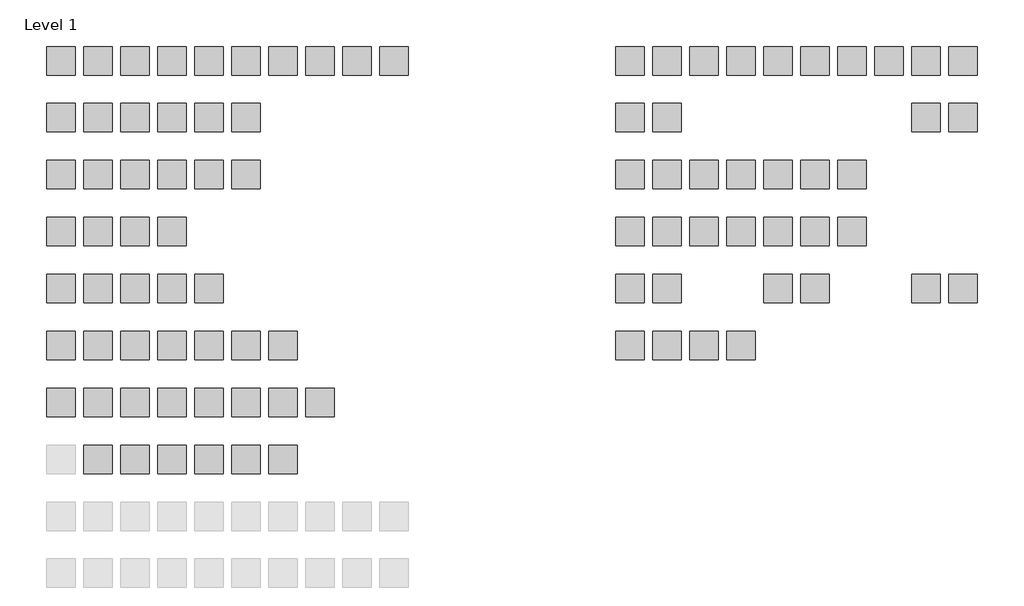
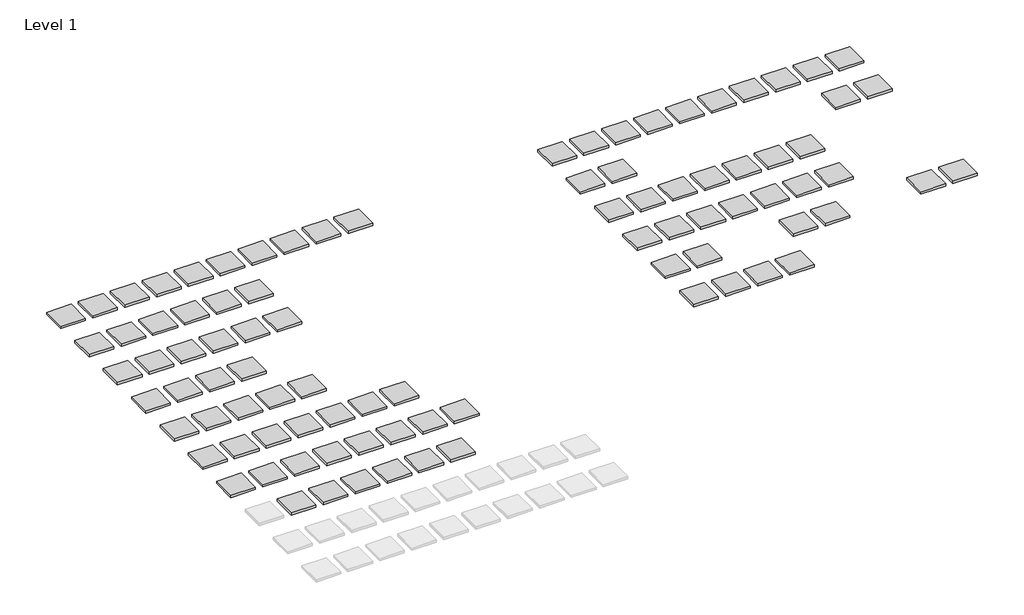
# One storey, part 2 of 2: 90 proxies.
"""IFC4 building model written with IfcOpenShell, lengths in millimetres."""

from ifc_helpers import new_model, si_unit, origin, place, context, project, spatial, transform, mapped, element, save
from components import generic_models_875eb390

model = new_model("IFC4")

# Units and contexts
model_context = context("Model", 3, world=origin())
ifc_project = project(units=[si_unit("LENGTHUNIT", "METRE", prefix="MILLI")], contexts=[model_context])

# Site, building, storey
site = spatial("IfcSite", under=ifc_project)
building = spatial("IfcBuilding", under=site)
storey = spatial("IfcBuildingStorey", under=building, Name="Level 1", Elevation=0.0)

# Proxies
placement = place(None, origin())
generic_models_shape = generic_models_875eb390(model_context)
element("IfcBuildingElementProxy", 1, Name="martela - material button : martela - material button", ObjectType="martela - material button : martela - material button", at=placement, inside=storey, context=model_context, shape_type="MappedRepresentation", body=[
    mapped(generic_models_shape, transform((1659.2592593, 6263.9834449, 0.0), x_axis=(1.0, 0.0, 0.0), y_axis=(0.0, 1.0, 0.0), z_axis=(0.0, 0.0, 1.0))),
])
element("IfcBuildingElementProxy", 2, Name="martela - material button : martela - material button", ObjectType="martela - material button : martela - material button", at=placement, inside=storey, context=model_context, shape_type="MappedRepresentation", body=[
    mapped(generic_models_shape, transform((2959.2592593, 6263.9834449, 0.0), x_axis=(1.0, 0.0, 0.0), y_axis=(0.0, 1.0, 0.0), z_axis=(0.0, 0.0, 1.0))),
])
element("IfcBuildingElementProxy", 3, Name="martela - material button : martela - material button", ObjectType="martela - material button : martela - material button", at=placement, inside=storey, context=model_context, shape_type="MappedRepresentation", body=[
    mapped(generic_models_shape, transform((4259.2592593, 6263.9834449, 0.0), x_axis=(1.0, 0.0, 0.0), y_axis=(0.0, 1.0, 0.0), z_axis=(0.0, 0.0, 1.0))),
])
element("IfcBuildingElementProxy", 4, Name="martela - material button : martela - material button", ObjectType="martela - material button : martela - material button", at=placement, inside=storey, context=model_context, shape_type="MappedRepresentation", body=[
    mapped(generic_models_shape, transform((5559.2592593, 6263.9834449, 0.0), x_axis=(1.0, 0.0, 0.0), y_axis=(0.0, 1.0, 0.0), z_axis=(0.0, 0.0, 1.0))),
])
element("IfcBuildingElementProxy", 5, Name="martela - material button : martela - material button", ObjectType="martela - material button : martela - material button", at=placement, inside=storey, context=model_context, shape_type="MappedRepresentation", body=[
    mapped(generic_models_shape, transform((6859.2592593, 6263.9834449, 0.0), x_axis=(1.0, 0.0, 0.0), y_axis=(0.0, 1.0, 0.0), z_axis=(0.0, 0.0, 1.0))),
])
element("IfcBuildingElementProxy", 6, Name="martela - material button : martela - material button", ObjectType="martela - material button : martela - material button", at=placement, inside=storey, context=model_context, shape_type="MappedRepresentation", body=[
    mapped(generic_models_shape, transform((8159.2592593, 6263.9834449, 0.0), x_axis=(1.0, 0.0, 0.0), y_axis=(0.0, 1.0, 0.0), z_axis=(0.0, 0.0, 1.0))),
])
element("IfcBuildingElementProxy", 7, Name="martela - material button : martela - material button", ObjectType="martela - material button : martela - material button", at=placement, inside=storey, context=model_context, shape_type="MappedRepresentation", body=[
    mapped(generic_models_shape, transform((9459.2592593, 6263.9834449, 0.0), x_axis=(1.0, 0.0, 0.0), y_axis=(0.0, 1.0, 0.0), z_axis=(0.0, 0.0, 1.0))),
])
element("IfcBuildingElementProxy", 8, Name="martela - material button : martela - material button", ObjectType="martela - material button : martela - material button", at=placement, inside=storey, context=model_context, shape_type="MappedRepresentation", body=[
    mapped(generic_models_shape, transform((10759.2592593, 6263.9834449, 0.0), x_axis=(1.0, 0.0, 0.0), y_axis=(0.0, 1.0, 0.0), z_axis=(0.0, 0.0, 1.0))),
])
element("IfcBuildingElementProxy", 9, Name="martela - material button : martela - material button", ObjectType="martela - material button : martela - material button", at=placement, inside=storey, context=model_context, shape_type="MappedRepresentation", body=[
    mapped(generic_models_shape, transform((12059.2592593, 6263.9834449, 0.0), x_axis=(1.0, 0.0, 0.0), y_axis=(0.0, 1.0, 0.0), z_axis=(0.0, 0.0, 1.0))),
])
element("IfcBuildingElementProxy", 10, Name="martela - material button : martela - material button", ObjectType="martela - material button : martela - material button", at=placement, inside=storey, context=model_context, shape_type="MappedRepresentation", body=[
    mapped(generic_models_shape, transform((13359.2592593, 6263.9834449, 0.0), x_axis=(1.0, 0.0, 0.0), y_axis=(0.0, 1.0, 0.0), z_axis=(0.0, 0.0, 1.0))),
])
element("IfcBuildingElementProxy", 11, Name="martela - material button : martela - material button", ObjectType="martela - material button : martela - material button", at=placement, inside=storey, context=model_context, shape_type="MappedRepresentation", body=[
    mapped(generic_models_shape, transform((1659.2592593, 4263.9834449, 0.0), x_axis=(1.0, 0.0, 0.0), y_axis=(0.0, 1.0, 0.0), z_axis=(0.0, 0.0, 1.0))),
])
element("IfcBuildingElementProxy", 12, Name="martela - material button : martela - material button", ObjectType="martela - material button : martela - material button", at=placement, inside=storey, context=model_context, shape_type="MappedRepresentation", body=[
    mapped(generic_models_shape, transform((2959.2592593, 4263.9834449, 0.0), x_axis=(1.0, 0.0, 0.0), y_axis=(0.0, 1.0, 0.0), z_axis=(0.0, 0.0, 1.0))),
])
element("IfcBuildingElementProxy", 13, Name="martela - material button : martela - material button", ObjectType="martela - material button : martela - material button", at=placement, inside=storey, context=model_context, shape_type="MappedRepresentation", body=[
    mapped(generic_models_shape, transform((4259.2592593, 4263.9834449, 0.0), x_axis=(1.0, 0.0, 0.0), y_axis=(0.0, 1.0, 0.0), z_axis=(0.0, 0.0, 1.0))),
])
element("IfcBuildingElementProxy", 14, Name="martela - material button : martela - material button", ObjectType="martela - material button : martela - material button", at=placement, inside=storey, context=model_context, shape_type="MappedRepresentation", body=[
    mapped(generic_models_shape, transform((5559.2592593, 4263.9834449, 0.0), x_axis=(1.0, 0.0, 0.0), y_axis=(0.0, 1.0, 0.0), z_axis=(0.0, 0.0, 1.0))),
])
element("IfcBuildingElementProxy", 15, Name="martela - material button : martela - material button", ObjectType="martela - material button : martela - material button", at=placement, inside=storey, context=model_context, shape_type="MappedRepresentation", body=[
    mapped(generic_models_shape, transform((6859.2592593, 4263.9834449, 0.0), x_axis=(1.0, 0.0, 0.0), y_axis=(0.0, 1.0, 0.0), z_axis=(0.0, 0.0, 1.0))),
])
element("IfcBuildingElementProxy", 16, Name="martela - material button : martela - material button", ObjectType="martela - material button : martela - material button", at=placement, inside=storey, context=model_context, shape_type="MappedRepresentation", body=[
    mapped(generic_models_shape, transform((8159.2592593, 4263.9834449, 0.0), x_axis=(1.0, 0.0, 0.0), y_axis=(0.0, 1.0, 0.0), z_axis=(0.0, 0.0, 1.0))),
])
element("IfcBuildingElementProxy", 17, Name="martela - material button : martela - material button", ObjectType="martela - material button : martela - material button", at=placement, inside=storey, context=model_context, shape_type="MappedRepresentation", body=[
    mapped(generic_models_shape, transform((1659.2592593, 2263.9834449, 0.0), x_axis=(1.0, 0.0, 0.0), y_axis=(0.0, 1.0, 0.0), z_axis=(0.0, 0.0, 1.0))),
])
element("IfcBuildingElementProxy", 18, Name="martela - material button : martela - material button", ObjectType="martela - material button : martela - material button", at=placement, inside=storey, context=model_context, shape_type="MappedRepresentation", body=[
    mapped(generic_models_shape, transform((2959.2592593, 2263.9834449, 0.0), x_axis=(1.0, 0.0, 0.0), y_axis=(0.0, 1.0, 0.0), z_axis=(0.0, 0.0, 1.0))),
])
element("IfcBuildingElementProxy", 19, Name="martela - material button : martela - material button", ObjectType="martela - material button : martela - material button", at=placement, inside=storey, context=model_context, shape_type="MappedRepresentation", body=[
    mapped(generic_models_shape, transform((5559.2592593, 2263.9834449, 0.0), x_axis=(1.0, 0.0, 0.0), y_axis=(0.0, 1.0, 0.0), z_axis=(0.0, 0.0, 1.0))),
])
element("IfcBuildingElementProxy", 20, Name="martela - material button : martela - material button", ObjectType="martela - material button : martela - material button", at=placement, inside=storey, context=model_context, shape_type="MappedRepresentation", body=[
    mapped(generic_models_shape, transform((6859.2592593, 2263.9834449, 0.0), x_axis=(1.0, 0.0, 0.0), y_axis=(0.0, 1.0, 0.0), z_axis=(0.0, 0.0, 1.0))),
])
element("IfcBuildingElementProxy", 21, Name="martela - material button : martela - material button", ObjectType="martela - material button : martela - material button", at=placement, inside=storey, context=model_context, shape_type="MappedRepresentation", body=[
    mapped(generic_models_shape, transform((8159.2592593, 2263.9834449, 0.0), x_axis=(1.0, 0.0, 0.0), y_axis=(0.0, 1.0, 0.0), z_axis=(0.0, 0.0, 1.0))),
])
element("IfcBuildingElementProxy", 22, Name="martela - material button : martela - material button", ObjectType="martela - material button : martela - material button", at=placement, inside=storey, context=model_context, shape_type="MappedRepresentation", body=[
    mapped(generic_models_shape, transform((1659.2592593, 263.9834449, 0.0), x_axis=(1.0, 0.0, 0.0), y_axis=(0.0, 1.0, 0.0), z_axis=(0.0, 0.0, 1.0))),
])
element("IfcBuildingElementProxy", 23, Name="martela - material button : martela - material button", ObjectType="martela - material button : martela - material button", at=placement, inside=storey, context=model_context, shape_type="MappedRepresentation", body=[
    mapped(generic_models_shape, transform((2959.2592593, 263.9834449, 0.0), x_axis=(1.0, 0.0, 0.0), y_axis=(0.0, 1.0, 0.0), z_axis=(0.0, 0.0, 1.0))),
])
element("IfcBuildingElementProxy", 24, Name="martela - material button : martela - material button", ObjectType="martela - material button : martela - material button", at=placement, inside=storey, context=model_context, shape_type="MappedRepresentation", body=[
    mapped(generic_models_shape, transform((4259.2592593, 263.9834449, 0.0), x_axis=(1.0, 0.0, 0.0), y_axis=(0.0, 1.0, 0.0), z_axis=(0.0, 0.0, 1.0))),
])
element("IfcBuildingElementProxy", 25, Name="martela - material button : martela - material button", ObjectType="martela - material button : martela - material button", at=placement, inside=storey, context=model_context, shape_type="MappedRepresentation", body=[
    mapped(generic_models_shape, transform((5559.2592593, 263.9834449, 0.0), x_axis=(1.0, 0.0, 0.0), y_axis=(0.0, 1.0, 0.0), z_axis=(0.0, 0.0, 1.0))),
])
element("IfcBuildingElementProxy", 26, Name="martela - material button : martela - material button", ObjectType="martela - material button : martela - material button", at=placement, inside=storey, context=model_context, shape_type="MappedRepresentation", body=[
    mapped(generic_models_shape, transform((1659.2592593, -1736.0165551, 0.0), x_axis=(1.0, 0.0, 0.0), y_axis=(0.0, 1.0, 0.0), z_axis=(0.0, 0.0, 1.0))),
])
element("IfcBuildingElementProxy", 27, Name="martela - material button : martela - material button", ObjectType="martela - material button : martela - material button", at=placement, inside=storey, context=model_context, shape_type="MappedRepresentation", body=[
    mapped(generic_models_shape, transform((2959.2592593, -1736.0165551, 0.0), x_axis=(1.0, 0.0, 0.0), y_axis=(0.0, 1.0, 0.0), z_axis=(0.0, 0.0, 1.0))),
])
element("IfcBuildingElementProxy", 28, Name="martela - material button : martela - material button", ObjectType="martela - material button : martela - material button", at=placement, inside=storey, context=model_context, shape_type="MappedRepresentation", body=[
    mapped(generic_models_shape, transform((4259.2592593, -1736.0165551, 0.0), x_axis=(1.0, 0.0, 0.0), y_axis=(0.0, 1.0, 0.0), z_axis=(0.0, 0.0, 1.0))),
])
element("IfcBuildingElementProxy", 29, Name="martela - material button : martela - material button", ObjectType="martela - material button : martela - material button", at=placement, inside=storey, context=model_context, shape_type="MappedRepresentation", body=[
    mapped(generic_models_shape, transform((5559.2592593, -1736.0165551, 0.0), x_axis=(1.0, 0.0, 0.0), y_axis=(0.0, 1.0, 0.0), z_axis=(0.0, 0.0, 1.0))),
])
element("IfcBuildingElementProxy", 30, Name="martela - material button : martela - material button", ObjectType="martela - material button : martela - material button", at=placement, inside=storey, context=model_context, shape_type="MappedRepresentation", body=[
    mapped(generic_models_shape, transform((6859.2592593, -1736.0165551, 0.0), x_axis=(1.0, 0.0, 0.0), y_axis=(0.0, 1.0, 0.0), z_axis=(0.0, 0.0, 1.0))),
])
element("IfcBuildingElementProxy", 31, Name="martela - material button : martela - material button", ObjectType="martela - material button : martela - material button", at=placement, inside=storey, context=model_context, shape_type="MappedRepresentation", body=[
    mapped(generic_models_shape, transform((1659.2592593, -3736.0165551, 0.0), x_axis=(1.0, 0.0, 0.0), y_axis=(0.0, 1.0, 0.0), z_axis=(0.0, 0.0, 1.0))),
])
element("IfcBuildingElementProxy", 32, Name="martela - material button : martela - material button", ObjectType="martela - material button : martela - material button", at=placement, inside=storey, context=model_context, shape_type="MappedRepresentation", body=[
    mapped(generic_models_shape, transform((2959.2592593, -3736.0165551, 0.0), x_axis=(1.0, 0.0, 0.0), y_axis=(0.0, 1.0, 0.0), z_axis=(0.0, 0.0, 1.0))),
])
element("IfcBuildingElementProxy", 33, Name="martela - material button : martela - material button", ObjectType="martela - material button : martela - material button", at=placement, inside=storey, context=model_context, shape_type="MappedRepresentation", body=[
    mapped(generic_models_shape, transform((4259.2592593, -3736.0165551, 0.0), x_axis=(1.0, 0.0, 0.0), y_axis=(0.0, 1.0, 0.0), z_axis=(0.0, 0.0, 1.0))),
])
element("IfcBuildingElementProxy", 34, Name="martela - material button : martela - material button", ObjectType="martela - material button : martela - material button", at=placement, inside=storey, context=model_context, shape_type="MappedRepresentation", body=[
    mapped(generic_models_shape, transform((5559.2592593, -3736.0165551, 0.0), x_axis=(1.0, 0.0, 0.0), y_axis=(0.0, 1.0, 0.0), z_axis=(0.0, 0.0, 1.0))),
])
element("IfcBuildingElementProxy", 35, Name="martela - material button : martela - material button", ObjectType="martela - material button : martela - material button", at=placement, inside=storey, context=model_context, shape_type="MappedRepresentation", body=[
    mapped(generic_models_shape, transform((6859.2592593, -3736.0165551, 0.0), x_axis=(1.0, 0.0, 0.0), y_axis=(0.0, 1.0, 0.0), z_axis=(0.0, 0.0, 1.0))),
])
element("IfcBuildingElementProxy", 36, Name="martela - material button : martela - material button", ObjectType="martela - material button : martela - material button", at=placement, inside=storey, context=model_context, shape_type="MappedRepresentation", body=[
    mapped(generic_models_shape, transform((8159.2592593, -3736.0165551, 0.0), x_axis=(1.0, 0.0, 0.0), y_axis=(0.0, 1.0, 0.0), z_axis=(0.0, 0.0, 1.0))),
])
element("IfcBuildingElementProxy", 37, Name="martela - material button : martela - material button", ObjectType="martela - material button : martela - material button", at=placement, inside=storey, context=model_context, shape_type="MappedRepresentation", body=[
    mapped(generic_models_shape, transform((9459.2592593, -3736.0165551, 0.0), x_axis=(1.0, 0.0, 0.0), y_axis=(0.0, 1.0, 0.0), z_axis=(0.0, 0.0, 1.0))),
])
element("IfcBuildingElementProxy", 38, Name="martela - material button : martela - material button", ObjectType="martela - material button : martela - material button", at=placement, inside=storey, context=model_context, shape_type="MappedRepresentation", body=[
    mapped(generic_models_shape, transform((1659.2592593, -5736.0165551, 0.0), x_axis=(1.0, 0.0, 0.0), y_axis=(0.0, 1.0, 0.0), z_axis=(0.0, 0.0, 1.0))),
])
element("IfcBuildingElementProxy", 39, Name="martela - material button : martela - material button", ObjectType="martela - material button : martela - material button", at=placement, inside=storey, context=model_context, shape_type="MappedRepresentation", body=[
    mapped(generic_models_shape, transform((2959.2592593, -5736.0165551, 0.0), x_axis=(1.0, 0.0, 0.0), y_axis=(0.0, 1.0, 0.0), z_axis=(0.0, 0.0, 1.0))),
])
element("IfcBuildingElementProxy", 40, Name="martela - material button : martela - material button", ObjectType="martela - material button : martela - material button", at=placement, inside=storey, context=model_context, shape_type="MappedRepresentation", body=[
    mapped(generic_models_shape, transform((4259.2592593, -5736.0165551, 0.0), x_axis=(1.0, 0.0, 0.0), y_axis=(0.0, 1.0, 0.0), z_axis=(0.0, 0.0, 1.0))),
])
element("IfcBuildingElementProxy", 41, Name="martela - material button : martela - material button", ObjectType="martela - material button : martela - material button", at=placement, inside=storey, context=model_context, shape_type="MappedRepresentation", body=[
    mapped(generic_models_shape, transform((5559.2592593, -5736.0165551, 0.0), x_axis=(1.0, 0.0, 0.0), y_axis=(0.0, 1.0, 0.0), z_axis=(0.0, 0.0, 1.0))),
])
element("IfcBuildingElementProxy", 42, Name="martela - material button : martela - material button", ObjectType="martela - material button : martela - material button", at=placement, inside=storey, context=model_context, shape_type="MappedRepresentation", body=[
    mapped(generic_models_shape, transform((6859.2592593, -5736.0165551, 0.0), x_axis=(1.0, 0.0, 0.0), y_axis=(0.0, 1.0, 0.0), z_axis=(0.0, 0.0, 1.0))),
])
element("IfcBuildingElementProxy", 43, Name="martela - material button : martela - material button", ObjectType="martela - material button : martela - material button", at=placement, inside=storey, context=model_context, shape_type="MappedRepresentation", body=[
    mapped(generic_models_shape, transform((8159.2592593, -5736.0165551, 0.0), x_axis=(1.0, 0.0, 0.0), y_axis=(0.0, 1.0, 0.0), z_axis=(0.0, 0.0, 1.0))),
])
element("IfcBuildingElementProxy", 44, Name="martela - material button : martela - material button", ObjectType="martela - material button : martela - material button", at=placement, inside=storey, context=model_context, shape_type="MappedRepresentation", body=[
    mapped(generic_models_shape, transform((9459.2592593, -5736.0165551, 0.0), x_axis=(1.0, 0.0, 0.0), y_axis=(0.0, 1.0, 0.0), z_axis=(0.0, 0.0, 1.0))),
])
element("IfcBuildingElementProxy", 45, Name="martela - material button : martela - material button", ObjectType="martela - material button : martela - material button", at=placement, inside=storey, context=model_context, shape_type="MappedRepresentation", body=[
    mapped(generic_models_shape, transform((10759.2592593, -5736.0165551, 0.0), x_axis=(1.0, 0.0, 0.0), y_axis=(0.0, 1.0, 0.0), z_axis=(0.0, 0.0, 1.0))),
])
element("IfcBuildingElementProxy", 46, Name="martela - material button : martela - material button", ObjectType="martela - material button : martela - material button", at=placement, inside=storey, context=model_context, shape_type="MappedRepresentation", body=[
    mapped(generic_models_shape, transform((2959.2592593, -7736.0165551, 0.0), x_axis=(1.0, 0.0, 0.0), y_axis=(0.0, 1.0, 0.0), z_axis=(0.0, 0.0, 1.0))),
])
element("IfcBuildingElementProxy", 47, Name="martela - material button : martela - material button", ObjectType="martela - material button : martela - material button", at=placement, inside=storey, context=model_context, shape_type="MappedRepresentation", body=[
    mapped(generic_models_shape, transform((4259.2592593, -7736.0165551, 0.0), x_axis=(1.0, 0.0, 0.0), y_axis=(0.0, 1.0, 0.0), z_axis=(0.0, 0.0, 1.0))),
])
element("IfcBuildingElementProxy", 48, Name="martela - material button : martela - material button", ObjectType="martela - material button : martela - material button", at=placement, inside=storey, context=model_context, shape_type="MappedRepresentation", body=[
    mapped(generic_models_shape, transform((5559.2592593, -7736.0165551, 0.0), x_axis=(1.0, 0.0, 0.0), y_axis=(0.0, 1.0, 0.0), z_axis=(0.0, 0.0, 1.0))),
])
element("IfcBuildingElementProxy", 49, Name="martela - material button : martela - material button", ObjectType="martela - material button : martela - material button", at=placement, inside=storey, context=model_context, shape_type="MappedRepresentation", body=[
    mapped(generic_models_shape, transform((6859.2592593, -7736.0165551, 0.0), x_axis=(1.0, 0.0, 0.0), y_axis=(0.0, 1.0, 0.0), z_axis=(0.0, 0.0, 1.0))),
])
element("IfcBuildingElementProxy", 50, Name="martela - material button : martela - material button", ObjectType="martela - material button : martela - material button", at=placement, inside=storey, context=model_context, shape_type="MappedRepresentation", body=[
    mapped(generic_models_shape, transform((8159.2592593, -7736.0165551, 0.0), x_axis=(1.0, 0.0, 0.0), y_axis=(0.0, 1.0, 0.0), z_axis=(0.0, 0.0, 1.0))),
])
element("IfcBuildingElementProxy", 51, Name="martela - material button : martela - material button", ObjectType="martela - material button : martela - material button", at=placement, inside=storey, context=model_context, shape_type="MappedRepresentation", body=[
    mapped(generic_models_shape, transform((9459.2592593, -7736.0165551, 0.0), x_axis=(1.0, 0.0, 0.0), y_axis=(0.0, 1.0, 0.0), z_axis=(0.0, 0.0, 1.0))),
])
element("IfcBuildingElementProxy", 52, Name="martela - material button : martela - material button", ObjectType="martela - material button : martela - material button", at=placement, inside=storey, context=model_context, shape_type="MappedRepresentation", body=[
    mapped(generic_models_shape, transform((21659.2592593, 6263.9834449, 0.0), x_axis=(1.0, 0.0, 0.0), y_axis=(0.0, 1.0, 0.0), z_axis=(0.0, 0.0, 1.0))),
])
element("IfcBuildingElementProxy", 53, Name="martela - material button : martela - material button", ObjectType="martela - material button : martela - material button", at=placement, inside=storey, context=model_context, shape_type="MappedRepresentation", body=[
    mapped(generic_models_shape, transform((24259.2592593, 6263.9834449, 0.0), x_axis=(1.0, 0.0, 0.0), y_axis=(0.0, 1.0, 0.0), z_axis=(0.0, 0.0, 1.0))),
])
element("IfcBuildingElementProxy", 54, Name="martela - material button : martela - material button", ObjectType="martela - material button : martela - material button", at=placement, inside=storey, context=model_context, shape_type="MappedRepresentation", body=[
    mapped(generic_models_shape, transform((25559.2592593, 6263.9834449, 0.0), x_axis=(1.0, 0.0, 0.0), y_axis=(0.0, 1.0, 0.0), z_axis=(0.0, 0.0, 1.0))),
])
element("IfcBuildingElementProxy", 55, Name="martela - material button : martela - material button", ObjectType="martela - material button : martela - material button", at=placement, inside=storey, context=model_context, shape_type="MappedRepresentation", body=[
    mapped(generic_models_shape, transform((26859.2592593, 6263.9834449, 0.0), x_axis=(1.0, 0.0, 0.0), y_axis=(0.0, 1.0, 0.0), z_axis=(0.0, 0.0, 1.0))),
])
element("IfcBuildingElementProxy", 56, Name="martela - material button : martela - material button", ObjectType="martela - material button : martela - material button", at=placement, inside=storey, context=model_context, shape_type="MappedRepresentation", body=[
    mapped(generic_models_shape, transform((28159.2592593, 6263.9834449, 0.0), x_axis=(1.0, 0.0, 0.0), y_axis=(0.0, 1.0, 0.0), z_axis=(0.0, 0.0, 1.0))),
])
element("IfcBuildingElementProxy", 57, Name="martela - material button : martela - material button", ObjectType="martela - material button : martela - material button", at=placement, inside=storey, context=model_context, shape_type="MappedRepresentation", body=[
    mapped(generic_models_shape, transform((29459.2592593, 6263.9834449, 0.0), x_axis=(1.0, 0.0, 0.0), y_axis=(0.0, 1.0, 0.0), z_axis=(0.0, 0.0, 1.0))),
])
element("IfcBuildingElementProxy", 58, Name="martela - material button : martela - material button", ObjectType="martela - material button : martela - material button", at=placement, inside=storey, context=model_context, shape_type="MappedRepresentation", body=[
    mapped(generic_models_shape, transform((33359.2592593, 6263.9834449, 0.0), x_axis=(1.0, 0.0, 0.0), y_axis=(0.0, 1.0, 0.0), z_axis=(0.0, 0.0, 1.0))),
])
element("IfcBuildingElementProxy", 59, Name="martela - material button : martela - material button", ObjectType="martela - material button : martela - material button", at=placement, inside=storey, context=model_context, shape_type="MappedRepresentation", body=[
    mapped(generic_models_shape, transform((30759.2592593, 6263.9834449, 0.0), x_axis=(1.0, 0.0, 0.0), y_axis=(0.0, 1.0, 0.0), z_axis=(0.0, 0.0, 1.0))),
])
element("IfcBuildingElementProxy", 60, Name="martela - material button : martela - material button", ObjectType="martela - material button : martela - material button", at=placement, inside=storey, context=model_context, shape_type="MappedRepresentation", body=[
    mapped(generic_models_shape, transform((33359.2592593, 4263.9834449, 0.0), x_axis=(1.0, 0.0, 0.0), y_axis=(0.0, 1.0, 0.0), z_axis=(0.0, 0.0, 1.0))),
])
element("IfcBuildingElementProxy", 61, Name="martela - material button : martela - material button", ObjectType="martela - material button : martela - material button", at=placement, inside=storey, context=model_context, shape_type="MappedRepresentation", body=[
    mapped(generic_models_shape, transform((32059.2592593, 6263.9834449, 0.0), x_axis=(1.0, 0.0, 0.0), y_axis=(0.0, 1.0, 0.0), z_axis=(0.0, 0.0, 1.0))),
])
element("IfcBuildingElementProxy", 62, Name="martela - material button : martela - material button", ObjectType="martela - material button : martela - material button", at=placement, inside=storey, context=model_context, shape_type="MappedRepresentation", body=[
    mapped(generic_models_shape, transform((32059.2592593, 4263.9834449, 0.0), x_axis=(1.0, 0.0, 0.0), y_axis=(0.0, 1.0, 0.0), z_axis=(0.0, 0.0, 1.0))),
])
element("IfcBuildingElementProxy", 63, Name="martela - material button : martela - material button", ObjectType="martela - material button : martela - material button", at=placement, inside=storey, context=model_context, shape_type="MappedRepresentation", body=[
    mapped(generic_models_shape, transform((22959.2592593, 6263.9834449, 0.0), x_axis=(1.0, 0.0, 0.0), y_axis=(0.0, 1.0, 0.0), z_axis=(0.0, 0.0, 1.0))),
])
element("IfcBuildingElementProxy", 64, Name="martela - material button : martela - material button", ObjectType="martela - material button : martela - material button", at=placement, inside=storey, context=model_context, shape_type="MappedRepresentation", body=[
    mapped(generic_models_shape, transform((21659.2592593, 4263.9834449, 0.0), x_axis=(1.0, 0.0, 0.0), y_axis=(0.0, 1.0, 0.0), z_axis=(0.0, 0.0, 1.0))),
])
element("IfcBuildingElementProxy", 65, Name="martela - material button : martela - material button", ObjectType="martela - material button : martela - material button", at=placement, inside=storey, context=model_context, shape_type="MappedRepresentation", body=[
    mapped(generic_models_shape, transform((22959.2592593, 4263.9834449, 0.0), x_axis=(1.0, 0.0, 0.0), y_axis=(0.0, 1.0, 0.0), z_axis=(0.0, 0.0, 1.0))),
])
element("IfcBuildingElementProxy", 66, Name="martela - material button : martela - material button", ObjectType="martela - material button : martela - material button", at=placement, inside=storey, context=model_context, shape_type="MappedRepresentation", body=[
    mapped(generic_models_shape, transform((21659.2592593, 263.9834449, 0.0), x_axis=(1.0, 0.0, 0.0), y_axis=(0.0, 1.0, 0.0), z_axis=(0.0, 0.0, 1.0))),
])
element("IfcBuildingElementProxy", 67, Name="martela - material button : martela - material button", ObjectType="martela - material button : martela - material button", at=placement, inside=storey, context=model_context, shape_type="MappedRepresentation", body=[
    mapped(generic_models_shape, transform((22959.2592593, 263.9834449, 0.0), x_axis=(1.0, 0.0, 0.0), y_axis=(0.0, 1.0, 0.0), z_axis=(0.0, 0.0, 1.0))),
])
element("IfcBuildingElementProxy", 68, Name="martela - material button : martela - material button", ObjectType="martela - material button : martela - material button", at=placement, inside=storey, context=model_context, shape_type="MappedRepresentation", body=[
    mapped(generic_models_shape, transform((24259.2592593, 263.9834449, 0.0), x_axis=(1.0, 0.0, 0.0), y_axis=(0.0, 1.0, 0.0), z_axis=(0.0, 0.0, 1.0))),
])
element("IfcBuildingElementProxy", 69, Name="martela - material button : martela - material button", ObjectType="martela - material button : martela - material button", at=placement, inside=storey, context=model_context, shape_type="MappedRepresentation", body=[
    mapped(generic_models_shape, transform((25559.2592593, 263.9834449, 0.0), x_axis=(1.0, 0.0, 0.0), y_axis=(0.0, 1.0, 0.0), z_axis=(0.0, 0.0, 1.0))),
])
element("IfcBuildingElementProxy", 70, Name="martela - material button : martela - material button", ObjectType="martela - material button : martela - material button", at=placement, inside=storey, context=model_context, shape_type="MappedRepresentation", body=[
    mapped(generic_models_shape, transform((26859.2592593, 263.9834449, 0.0), x_axis=(1.0, 0.0, 0.0), y_axis=(0.0, 1.0, 0.0), z_axis=(0.0, 0.0, 1.0))),
])
element("IfcBuildingElementProxy", 71, Name="martela - material button : martela - material button", ObjectType="martela - material button : martela - material button", at=placement, inside=storey, context=model_context, shape_type="MappedRepresentation", body=[
    mapped(generic_models_shape, transform((28159.2592593, 263.9834449, 0.0), x_axis=(1.0, 0.0, 0.0), y_axis=(0.0, 1.0, 0.0), z_axis=(0.0, 0.0, 1.0))),
])
element("IfcBuildingElementProxy", 72, Name="martela - material button : martela - material button", ObjectType="martela - material button : martela - material button", at=placement, inside=storey, context=model_context, shape_type="MappedRepresentation", body=[
    mapped(generic_models_shape, transform((29459.2592593, 263.9834449, 0.0), x_axis=(1.0, 0.0, 0.0), y_axis=(0.0, 1.0, 0.0), z_axis=(0.0, 0.0, 1.0))),
])
element("IfcBuildingElementProxy", 73, Name="martela - material button : martela - material button", ObjectType="martela - material button : martela - material button", at=placement, inside=storey, context=model_context, shape_type="MappedRepresentation", body=[
    mapped(generic_models_shape, transform((22959.2592593, 2263.9834449, 0.0), x_axis=(1.0, 0.0, 0.0), y_axis=(0.0, 1.0, 0.0), z_axis=(0.0, 0.0, 1.0))),
])
element("IfcBuildingElementProxy", 74, Name="martela - material button : martela - material button", ObjectType="martela - material button : martela - material button", at=placement, inside=storey, context=model_context, shape_type="MappedRepresentation", body=[
    mapped(generic_models_shape, transform((21659.2592593, 2263.9834449, 0.0), x_axis=(1.0, 0.0, 0.0), y_axis=(0.0, 1.0, 0.0), z_axis=(0.0, 0.0, 1.0))),
])
element("IfcBuildingElementProxy", 75, Name="martela - material button : martela - material button", ObjectType="martela - material button : martela - material button", at=placement, inside=storey, context=model_context, shape_type="MappedRepresentation", body=[
    mapped(generic_models_shape, transform((24259.2592593, 2263.9834449, 0.0), x_axis=(1.0, 0.0, 0.0), y_axis=(0.0, 1.0, 0.0), z_axis=(0.0, 0.0, 1.0))),
])
element("IfcBuildingElementProxy", 76, Name="martela - material button : martela - material button", ObjectType="martela - material button : martela - material button", at=placement, inside=storey, context=model_context, shape_type="MappedRepresentation", body=[
    mapped(generic_models_shape, transform((25559.2592593, 2263.9834449, 0.0), x_axis=(1.0, 0.0, 0.0), y_axis=(0.0, 1.0, 0.0), z_axis=(0.0, 0.0, 1.0))),
])
element("IfcBuildingElementProxy", 77, Name="martela - material button : martela - material button", ObjectType="martela - material button : martela - material button", at=placement, inside=storey, context=model_context, shape_type="MappedRepresentation", body=[
    mapped(generic_models_shape, transform((26859.2592593, 2263.9834449, 0.0), x_axis=(1.0, 0.0, 0.0), y_axis=(0.0, 1.0, 0.0), z_axis=(0.0, 0.0, 1.0))),
])
element("IfcBuildingElementProxy", 78, Name="martela - material button : martela - material button", ObjectType="martela - material button : martela - material button", at=placement, inside=storey, context=model_context, shape_type="MappedRepresentation", body=[
    mapped(generic_models_shape, transform((28159.2592593, 2263.9834449, 0.0), x_axis=(1.0, 0.0, 0.0), y_axis=(0.0, 1.0, 0.0), z_axis=(0.0, 0.0, 1.0))),
])
element("IfcBuildingElementProxy", 79, Name="martela - material button : martela - material button", ObjectType="martela - material button : martela - material button", at=placement, inside=storey, context=model_context, shape_type="MappedRepresentation", body=[
    mapped(generic_models_shape, transform((29459.2592593, 2263.9834449, 0.0), x_axis=(1.0, 0.0, 0.0), y_axis=(0.0, 1.0, 0.0), z_axis=(0.0, 0.0, 1.0))),
])
element("IfcBuildingElementProxy", 80, Name="martela - material button : martela - material button", ObjectType="martela - material button : martela - material button", at=placement, inside=storey, context=model_context, shape_type="MappedRepresentation", body=[
    mapped(generic_models_shape, transform((21659.2592593, -1736.0165551, 0.0), x_axis=(1.0, 0.0, 0.0), y_axis=(0.0, 1.0, 0.0), z_axis=(0.0, 0.0, 1.0))),
])
element("IfcBuildingElementProxy", 81, Name="martela - material button : martela - material button", ObjectType="martela - material button : martela - material button", at=placement, inside=storey, context=model_context, shape_type="MappedRepresentation", body=[
    mapped(generic_models_shape, transform((22959.2592593, -1736.0165551, 0.0), x_axis=(1.0, 0.0, 0.0), y_axis=(0.0, 1.0, 0.0), z_axis=(0.0, 0.0, 1.0))),
])
element("IfcBuildingElementProxy", 82, Name="martela - material button : martela - material button", ObjectType="martela - material button : martela - material button", at=placement, inside=storey, context=model_context, shape_type="MappedRepresentation", body=[
    mapped(generic_models_shape, transform((26859.2592593, -1736.0165551, 0.0), x_axis=(1.0, 0.0, 0.0), y_axis=(0.0, 1.0, 0.0), z_axis=(0.0, 0.0, 1.0))),
])
element("IfcBuildingElementProxy", 83, Name="martela - material button : martela - material button", ObjectType="martela - material button : martela - material button", at=placement, inside=storey, context=model_context, shape_type="MappedRepresentation", body=[
    mapped(generic_models_shape, transform((28159.2592593, -1736.0165551, 0.0), x_axis=(1.0, 0.0, 0.0), y_axis=(0.0, 1.0, 0.0), z_axis=(0.0, 0.0, 1.0))),
])
element("IfcBuildingElementProxy", 84, Name="martela - material button : martela - material button", ObjectType="martela - material button : martela - material button", at=placement, inside=storey, context=model_context, shape_type="MappedRepresentation", body=[
    mapped(generic_models_shape, transform((32059.2592593, -1736.0165551, 0.0), x_axis=(1.0, 0.0, 0.0), y_axis=(0.0, 1.0, 0.0), z_axis=(0.0, 0.0, 1.0))),
])
element("IfcBuildingElementProxy", 85, Name="martela - material button : martela - material button", ObjectType="martela - material button : martela - material button", at=placement, inside=storey, context=model_context, shape_type="MappedRepresentation", body=[
    mapped(generic_models_shape, transform((33359.2592593, -1736.0165551, 0.0), x_axis=(1.0, 0.0, 0.0), y_axis=(0.0, 1.0, 0.0), z_axis=(0.0, 0.0, 1.0))),
])
element("IfcBuildingElementProxy", 86, Name="martela - material button : martela - material button", ObjectType="martela - material button : martela - material button", at=placement, inside=storey, context=model_context, shape_type="MappedRepresentation", body=[
    mapped(generic_models_shape, transform((21659.2592593, -3736.0165551, 0.0), x_axis=(1.0, 0.0, 0.0), y_axis=(0.0, 1.0, 0.0), z_axis=(0.0, 0.0, 1.0))),
])
element("IfcBuildingElementProxy", 87, Name="martela - material button : martela - material button", ObjectType="martela - material button : martela - material button", at=placement, inside=storey, context=model_context, shape_type="MappedRepresentation", body=[
    mapped(generic_models_shape, transform((22959.2592593, -3736.0165551, 0.0), x_axis=(1.0, 0.0, 0.0), y_axis=(0.0, 1.0, 0.0), z_axis=(0.0, 0.0, 1.0))),
])
element("IfcBuildingElementProxy", 88, Name="martela - material button : martela - material button", ObjectType="martela - material button : martela - material button", at=placement, inside=storey, context=model_context, shape_type="MappedRepresentation", body=[
    mapped(generic_models_shape, transform((24259.2592593, -3736.0165551, 0.0), x_axis=(1.0, 0.0, 0.0), y_axis=(0.0, 1.0, 0.0), z_axis=(0.0, 0.0, 1.0))),
])
element("IfcBuildingElementProxy", 89, Name="martela - material button : martela - material button", ObjectType="martela - material button : martela - material button", at=placement, inside=storey, context=model_context, shape_type="MappedRepresentation", body=[
    mapped(generic_models_shape, transform((25559.2592593, -3736.0165551, 0.0), x_axis=(1.0, 0.0, 0.0), y_axis=(0.0, 1.0, 0.0), z_axis=(0.0, 0.0, 1.0))),
])
element("IfcBuildingElementProxy", 90, Name="martela - material button : martela - material button", ObjectType="martela - material button : martela - material button", at=placement, inside=storey, context=model_context, shape_type="MappedRepresentation", body=[
    mapped(generic_models_shape, transform((4259.2592593, 2263.9834449, 0.0), x_axis=(1.0, 0.0, 0.0), y_axis=(0.0, 1.0, 0.0), z_axis=(0.0, 0.0, 1.0))),
])

save(model, "model.ifc")
